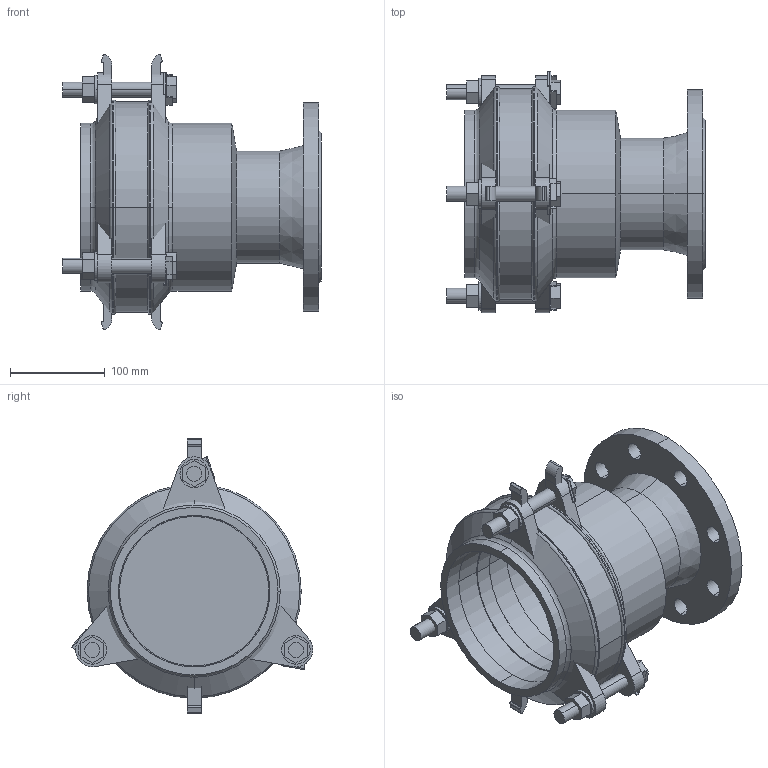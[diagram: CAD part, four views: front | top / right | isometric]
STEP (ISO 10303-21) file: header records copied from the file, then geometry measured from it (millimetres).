
FILE_DESCRIPTION(('STEP AP214'),'1');
FILE_NAME('EM00004447 DN 100-125.STP','2015-01-29T09:08:56',(' '),(' '),'Spatial InterOp 3D',' ',' ');
FILE_SCHEMA(('automotive_design'));
Length unit declared in the file: millimetre
Products named in the file (38): 3D-Objekt
Bounding box: 273 x 254.75 x 290 mm (x, y, z)
Volume: 2576640.2 mm3; surface area: 682906.4 mm2
Topology: 38 solids, 38 shells, 307 faces, 691 edges, 460 vertices
Faces by surface type: plane 186, cylinder 95, cone 14, torus 12
Entity records: 12021 total; most frequent: DIRECTION 1633, CARTESIAN_POINT 1496, ORIENTED_EDGE 1382, EDGE_CURVE 691, AXIS2_PLACEMENT_3D 597, VERTEX_POINT 460, LINE 439, VECTOR 439
